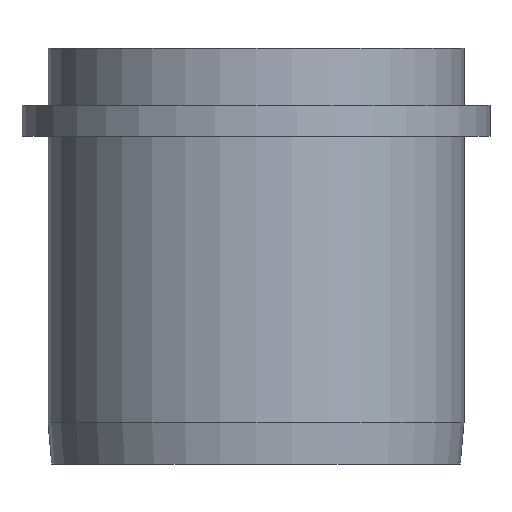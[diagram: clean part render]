
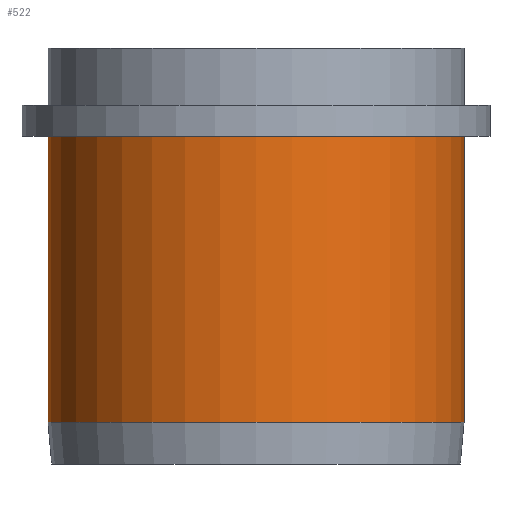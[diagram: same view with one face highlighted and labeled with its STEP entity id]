
A CAD part, left-side view. The second image highlights one B-rep face of the part: STEP entity #522.
In plain terms, the highlighted cylindrical face has radius 40 mm (diameter 80 mm), a partial arc.
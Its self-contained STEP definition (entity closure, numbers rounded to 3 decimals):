
#172=CARTESIAN_POINT('Axis2P3D Location',(0.,0.,40.)) ;
#295=CARTESIAN_POINT('Axis2P3D Location',(0.,0.,63.)) ;
#299=CARTESIAN_POINT('Vertex',(0.,40.,63.)) ;
#301=CARTESIAN_POINT('Vertex',(0.,-40.,63.)) ;
#435=CARTESIAN_POINT('Axis2P3D Location',(0.,0.,8.)) ;
#439=CARTESIAN_POINT('Vertex',(0.,40.,8.)) ;
#441=CARTESIAN_POINT('Vertex',(0.,-40.,8.)) ;
#506=CARTESIAN_POINT('Line Origine',(0.,40.,40.)) ;
#511=CARTESIAN_POINT('Line Origine',(0.,-40.,40.)) ;
#173=DIRECTION('Axis2P3D Direction',(0.,0.,1.)) ;
#174=DIRECTION('Axis2P3D XDirection',(0.,-1.,0.)) ;
#296=DIRECTION('Axis2P3D Direction',(0.,0.,1.)) ;
#436=DIRECTION('Axis2P3D Direction',(0.,0.,1.)) ;
#507=DIRECTION('Vector Direction',(0.,0.,1.)) ;
#512=DIRECTION('Vector Direction',(0.,0.,1.)) ;
#175=AXIS2_PLACEMENT_3D('Cylinder Axis2P3D',#172,#173,#174) ;
#297=AXIS2_PLACEMENT_3D('Circle Axis2P3D',#295,#296,$) ;
#437=AXIS2_PLACEMENT_3D('Circle Axis2P3D',#435,#436,$) ;
#517=ORIENTED_EDGE('',*,*,#510,.F.) ;
#518=ORIENTED_EDGE('',*,*,#443,.T.) ;
#519=ORIENTED_EDGE('',*,*,#515,.T.) ;
#520=ORIENTED_EDGE('',*,*,#303,.F.) ;
#508=VECTOR('Line Direction',#507,1.) ;
#513=VECTOR('Line Direction',#512,1.) ;
#522=ADVANCED_FACE('PartBody',(#521),#176,.T.) ;
#298=CIRCLE('generated circle',#297,40.) ;
#438=CIRCLE('generated circle',#437,40.) ;
#176=CYLINDRICAL_SURFACE('generated cylinder',#175,40.) ;
#303=EDGE_CURVE('',#300,#302,#298,.T.) ;
#443=EDGE_CURVE('',#440,#442,#438,.T.) ;
#510=EDGE_CURVE('',#440,#300,#509,.T.) ;
#515=EDGE_CURVE('',#442,#302,#514,.T.) ;
#516=EDGE_LOOP('',(#517,#518,#519,#520)) ;
#521=FACE_OUTER_BOUND('',#516,.T.) ;
#509=LINE('Line',#506,#508) ;
#514=LINE('Line',#511,#513) ;
#300=VERTEX_POINT('',#299) ;
#302=VERTEX_POINT('',#301) ;
#440=VERTEX_POINT('',#439) ;
#442=VERTEX_POINT('',#441) ;
